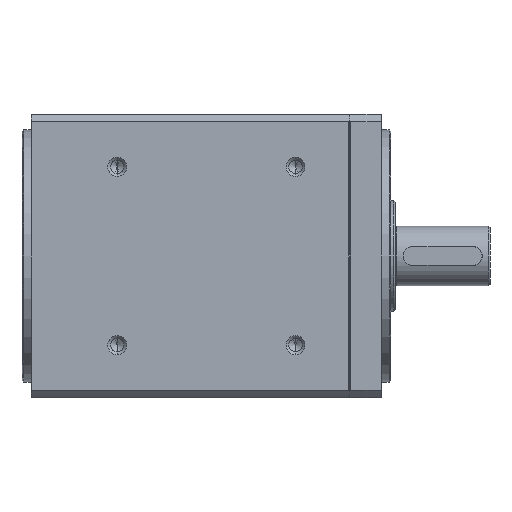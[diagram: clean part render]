
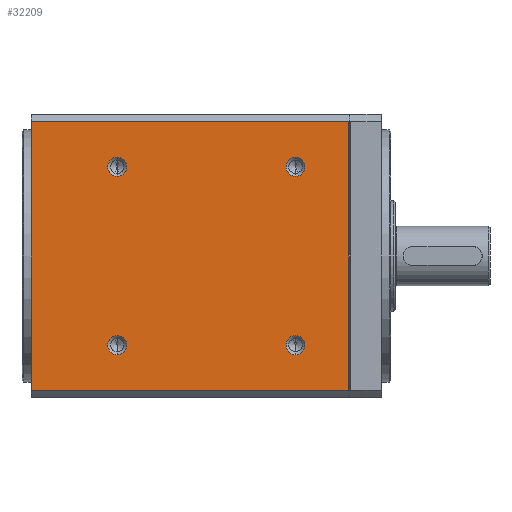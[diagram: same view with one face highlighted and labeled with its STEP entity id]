
A CAD part, left-side view. The second image highlights one B-rep face of the part: STEP entity #32209.
In plain terms, the highlighted planar face has unit normal (-1, 0, 0).
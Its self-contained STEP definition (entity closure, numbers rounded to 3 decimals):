
#2603 = CARTESIAN_POINT ( 'NONE',  ( -45., 61., -42.65 ) ) ;
#2604 = CARTESIAN_POINT ( 'NONE',  ( -45., -39.7, 42.65 ) ) ;
#17659 = AXIS2_PLACEMENT_3D ( 'NONE', #22457, #22461, #22462 ) ;
#18389 = CIRCLE ( 'NONE', #18393, 3. ) ;
#18393 = AXIS2_PLACEMENT_3D ( 'NONE', #25386, #25387, #25388 ) ;
#18415 = CIRCLE ( 'NONE', #18426, 3. ) ;
#18416 = VERTEX_POINT ( 'NONE', #38796 ) ;
#18426 = AXIS2_PLACEMENT_3D ( 'NONE', #25416, #25417, #25418 ) ;
#18462 = VERTEX_POINT ( 'NONE', #38835 ) ;
#18474 = VERTEX_POINT ( 'NONE', #38847 ) ;
#18478 = VERTEX_POINT ( 'NONE', #38851 ) ;
#18480 = VERTEX_POINT ( 'NONE', #38853 ) ;
#18484 = VERTEX_POINT ( 'NONE', #38857 ) ;
#18485 = VERTEX_POINT ( 'NONE', #38858 ) ;
#18489 = VERTEX_POINT ( 'NONE', #38862 ) ;
#18490 = VERTEX_POINT ( 'NONE', #38863 ) ;
#18660 = VERTEX_POINT ( 'NONE', #39033 ) ;
#22450 = PLANE ( 'NONE',  #17659 ) ;
#22453 = FACE_OUTER_BOUND ( 'NONE', #34297, .T. ) ;
#22454 = FACE_BOUND ( 'NONE', #34298, .T. ) ;
#22456 = FACE_BOUND ( 'NONE', #34301, .T. ) ;
#22457 = CARTESIAN_POINT ( 'NONE',  ( -45., -39.7, -42.65 ) ) ;
#22458 = FACE_BOUND ( 'NONE', #34318, .T. ) ;
#22460 = FACE_BOUND ( 'NONE', #34343, .T. ) ;
#22461 = DIRECTION ( 'NONE',  ( -1., 0., 0. ) ) ;
#22462 = DIRECTION ( 'NONE',  ( 0., 0., 1. ) ) ;
#25386 = CARTESIAN_POINT ( 'NONE',  ( -45., 33.784, -28.284 ) ) ;
#25387 = DIRECTION ( 'NONE',  ( 1., 0., 0. ) ) ;
#25388 = DIRECTION ( 'NONE',  ( 0., 0., 1. ) ) ;
#25416 = CARTESIAN_POINT ( 'NONE',  ( -45., 33.784, 28.284 ) ) ;
#25417 = DIRECTION ( 'NONE',  ( 1., 0., 0. ) ) ;
#25418 = DIRECTION ( 'NONE',  ( 0., 0., 1. ) ) ;
#25993 = AXIS2_PLACEMENT_3D ( 'NONE', #44654, #44655, #44656 ) ;
#26952 = EDGE_CURVE ( 'NONE', #18474, #18462, #41082, .T. ) ;
#26956 = EDGE_CURVE ( 'NONE', #18480, #18478, #41087, .T. ) ;
#27062 = EDGE_CURVE ( 'NONE', #18462, #18474, #41242, .T. ) ;
#27063 = EDGE_CURVE ( 'NONE', #18478, #18480, #41244, .T. ) ;
#27064 = EDGE_CURVE ( 'NONE', #18484, #18485, #41246, .T. ) ;
#27065 = EDGE_CURVE ( 'NONE', #18489, #18490, #41224, .T. ) ;
#27087 = EDGE_CURVE ( 'NONE', #18416, #27681, #44725, .T. ) ;
#27108 = EDGE_CURVE ( 'NONE', #27680, #18416, #44825, .T. ) ;
#27109 = EDGE_CURVE ( 'NONE', #27681, #18660, #44830, .T. ) ;
#27110 = EDGE_CURVE ( 'NONE', #27680, #18660, #44833, .T. ) ;
#27680 = VERTEX_POINT ( 'NONE', #2603 ) ;
#27681 = VERTEX_POINT ( 'NONE', #2604 ) ;
#27791 = ORIENTED_EDGE ( 'NONE', *, *, #27087, .T. ) ;
#27792 = ORIENTED_EDGE ( 'NONE', *, *, #27109, .T. ) ;
#27793 = ORIENTED_EDGE ( 'NONE', *, *, #27108, .T. ) ;
#27794 = ORIENTED_EDGE ( 'NONE', *, *, #27062, .T. ) ;
#27795 = ORIENTED_EDGE ( 'NONE', *, *, #27064, .T. ) ;
#27796 = ORIENTED_EDGE ( 'NONE', *, *, #26956, .T. ) ;
#27797 = ORIENTED_EDGE ( 'NONE', *, *, #27063, .T. ) ;
#27798 = ORIENTED_EDGE ( 'NONE', *, *, #26952, .T. ) ;
#27800 = ORIENTED_EDGE ( 'NONE', *, *, #27065, .T. ) ;
#27817 = ORIENTED_EDGE ( 'NONE', *, *, #27110, .F. ) ;
#27818 = ORIENTED_EDGE ( 'NONE', *, *, #36862, .T. ) ;
#27822 = ORIENTED_EDGE ( 'NONE', *, *, #36851, .T. ) ;
#32209 = ADVANCED_FACE ( 'NONE', ( #22454, #22456, #22458, #22460, #22453 ), #22450, .T. ) ;
#34297 = EDGE_LOOP ( 'NONE', ( #27793, #27791, #27792, #27817 ) ) ;
#34298 = EDGE_LOOP ( 'NONE', ( #27822, #27800 ) ) ;
#34301 = EDGE_LOOP ( 'NONE', ( #27818, #27795 ) ) ;
#34318 = EDGE_LOOP ( 'NONE', ( #27796, #27797 ) ) ;
#34343 = EDGE_LOOP ( 'NONE', ( #27798, #27794 ) ) ;
#36851 = EDGE_CURVE ( 'NONE', #18490, #18489, #18389, .T. ) ;
#36862 = EDGE_CURVE ( 'NONE', #18485, #18484, #18415, .T. ) ;
#38796 = CARTESIAN_POINT ( 'NONE',  ( -45., -39.7, -42.65 ) ) ;
#38835 = CARTESIAN_POINT ( 'NONE',  ( -45., -22.784, -31.284 ) ) ;
#38847 = CARTESIAN_POINT ( 'NONE',  ( -45., -22.784, -25.284 ) ) ;
#38851 = CARTESIAN_POINT ( 'NONE',  ( -45., -22.784, 25.284 ) ) ;
#38853 = CARTESIAN_POINT ( 'NONE',  ( -45., -22.784, 31.284 ) ) ;
#38857 = CARTESIAN_POINT ( 'NONE',  ( -45., 33.784, 25.284 ) ) ;
#38858 = CARTESIAN_POINT ( 'NONE',  ( -45., 33.784, 31.284 ) ) ;
#38862 = CARTESIAN_POINT ( 'NONE',  ( -45., 33.784, -31.284 ) ) ;
#38863 = CARTESIAN_POINT ( 'NONE',  ( -45., 33.784, -25.284 ) ) ;
#39033 = CARTESIAN_POINT ( 'NONE',  ( -45., 61., 42.65 ) ) ;
#41082 = CIRCLE ( 'NONE', #41086, 3. ) ;
#41086 = AXIS2_PLACEMENT_3D ( 'NONE', #44309, #44310, #44311 ) ;
#41087 = CIRCLE ( 'NONE', #41092, 3. ) ;
#41092 = AXIS2_PLACEMENT_3D ( 'NONE', #44322, #44323, #44324 ) ;
#41224 = CIRCLE ( 'NONE', #45410, 3. ) ;
#41242 = CIRCLE ( 'NONE', #41245, 3. ) ;
#41244 = CIRCLE ( 'NONE', #41247, 3. ) ;
#41245 = AXIS2_PLACEMENT_3D ( 'NONE', #44648, #44649, #44650 ) ;
#41246 = CIRCLE ( 'NONE', #25993, 3. ) ;
#41247 = AXIS2_PLACEMENT_3D ( 'NONE', #44651, #44652, #44653 ) ;
#44309 = CARTESIAN_POINT ( 'NONE',  ( -45., -22.784, -28.284 ) ) ;
#44310 = DIRECTION ( 'NONE',  ( 1., 0., 0. ) ) ;
#44311 = DIRECTION ( 'NONE',  ( 0., 0., 1. ) ) ;
#44322 = CARTESIAN_POINT ( 'NONE',  ( -45., -22.784, 28.284 ) ) ;
#44323 = DIRECTION ( 'NONE',  ( 1., 0., 0. ) ) ;
#44324 = DIRECTION ( 'NONE',  ( 0., 0., 1. ) ) ;
#44648 = CARTESIAN_POINT ( 'NONE',  ( -45., -22.784, -28.284 ) ) ;
#44649 = DIRECTION ( 'NONE',  ( 1., 0., 0. ) ) ;
#44650 = DIRECTION ( 'NONE',  ( 0., 0., 1. ) ) ;
#44651 = CARTESIAN_POINT ( 'NONE',  ( -45., -22.784, 28.284 ) ) ;
#44652 = DIRECTION ( 'NONE',  ( 1., 0., 0. ) ) ;
#44653 = DIRECTION ( 'NONE',  ( 0., 0., 1. ) ) ;
#44654 = CARTESIAN_POINT ( 'NONE',  ( -45., 33.784, 28.284 ) ) ;
#44655 = DIRECTION ( 'NONE',  ( 1., 0., 0. ) ) ;
#44656 = DIRECTION ( 'NONE',  ( 0., 0., 1. ) ) ;
#44657 = CARTESIAN_POINT ( 'NONE',  ( -45., 33.784, -28.284 ) ) ;
#44658 = DIRECTION ( 'NONE',  ( 1., 0., 0. ) ) ;
#44659 = DIRECTION ( 'NONE',  ( 0., 0., 1. ) ) ;
#44725 = LINE ( 'NONE', #44729, #45442 ) ;
#44729 = CARTESIAN_POINT ( 'NONE',  ( -45., -39.7, 0. ) ) ;
#44730 = DIRECTION ( 'NONE',  ( 0., 0., 1. ) ) ;
#44780 = CARTESIAN_POINT ( 'NONE',  ( -45., 10.5, -42.65 ) ) ;
#44825 = LINE ( 'NONE', #44780, #45465 ) ;
#44829 = DIRECTION ( 'NONE',  ( 0., -1., 0. ) ) ;
#44830 = LINE ( 'NONE', #44831, #45477 ) ;
#44831 = CARTESIAN_POINT ( 'NONE',  ( -45., 10.5, 42.65 ) ) ;
#44832 = DIRECTION ( 'NONE',  ( 0., 1., 0. ) ) ;
#44833 = LINE ( 'NONE', #44835, #45478 ) ;
#44835 = CARTESIAN_POINT ( 'NONE',  ( -45., 61., 0. ) ) ;
#44836 = DIRECTION ( 'NONE',  ( 0., 0., 1. ) ) ;
#45410 = AXIS2_PLACEMENT_3D ( 'NONE', #44657, #44658, #44659 ) ;
#45442 = VECTOR ( 'NONE', #44730, 1000. ) ;
#45465 = VECTOR ( 'NONE', #44829, 1000. ) ;
#45477 = VECTOR ( 'NONE', #44832, 1000. ) ;
#45478 = VECTOR ( 'NONE', #44836, 1000. ) ;
